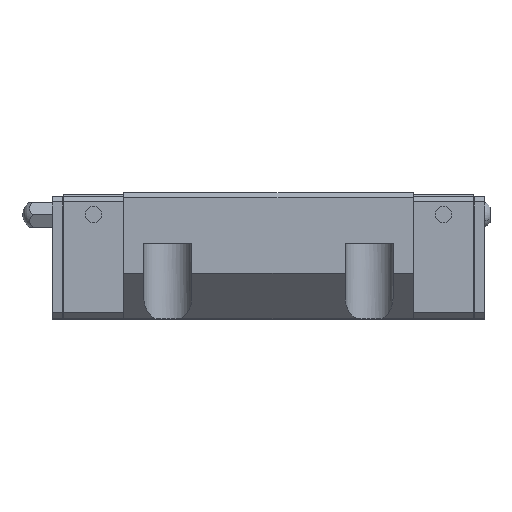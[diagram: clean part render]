
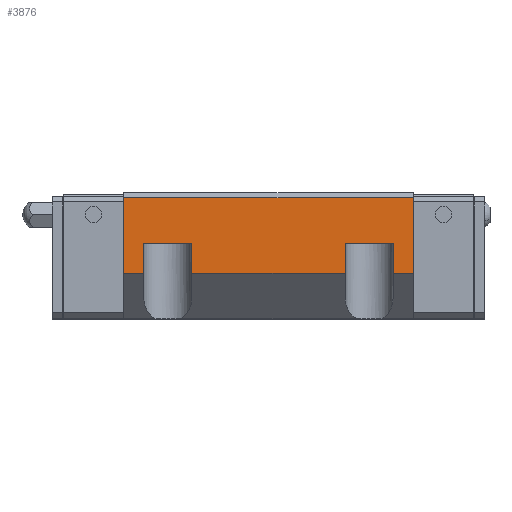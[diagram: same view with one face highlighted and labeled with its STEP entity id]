
A CAD part, top view. The second image highlights one B-rep face of the part: STEP entity #3876.
In plain terms, the highlighted planar face has unit normal (0, 0, 1).
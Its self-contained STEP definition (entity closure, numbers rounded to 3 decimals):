
#3 = DIRECTION ( 'NONE',  ( 0., -1., 0. ) ) ;
#253 = CARTESIAN_POINT ( 'NONE',  ( 15.25, -7., 31.5 ) ) ;
#386 = VERTEX_POINT ( 'NONE', #612 ) ;
#395 = VECTOR ( 'NONE', #3, 1000. ) ;
#406 = CARTESIAN_POINT ( 'NONE',  ( -28.75, -7., 31.5 ) ) ;
#594 = ORIENTED_EDGE ( 'NONE', *, *, #7575, .F. ) ;
#612 = CARTESIAN_POINT ( 'NONE',  ( 28.75, -7., 31.5 ) ) ;
#812 = FACE_OUTER_BOUND ( 'NONE', #8209, .T. ) ;
#908 = EDGE_CURVE ( 'NONE', #2154, #386, #2300, .T. ) ;
#999 = VECTOR ( 'NONE', #5262, 1000. ) ;
#1322 = ORIENTED_EDGE ( 'NONE', *, *, #3606, .T. ) ;
#1836 = CARTESIAN_POINT ( 'NONE',  ( -15.25, -7., 31.5 ) ) ;
#2023 = VERTEX_POINT ( 'NONE', #6689 ) ;
#2154 = VERTEX_POINT ( 'NONE', #3276 ) ;
#2207 = VERTEX_POINT ( 'NONE', #2895 ) ;
#2223 = DIRECTION ( 'NONE',  ( 1., 0., 0. ) ) ;
#2300 = LINE ( 'NONE', #5760, #7886 ) ;
#2316 = ORIENTED_EDGE ( 'NONE', *, *, #8424, .T. ) ;
#2397 = DIRECTION ( 'NONE',  ( 1., 0., 0. ) ) ;
#2449 = LINE ( 'NONE', #7252, #999 ) ;
#2746 = CARTESIAN_POINT ( 'NONE',  ( -15.25, -7., 31.5 ) ) ;
#2852 = VERTEX_POINT ( 'NONE', #253 ) ;
#2895 = CARTESIAN_POINT ( 'NONE',  ( -24.75, -1., 31.5 ) ) ;
#2942 = CARTESIAN_POINT ( 'NONE',  ( -28.75, -7., 31.5 ) ) ;
#2970 = CARTESIAN_POINT ( 'NONE',  ( 24.75, -1., 31.5 ) ) ;
#3052 = LINE ( 'NONE', #5777, #6879 ) ;
#3196 = VECTOR ( 'NONE', #8464, 1000. ) ;
#3276 = CARTESIAN_POINT ( 'NONE',  ( 24.75, -7., 31.5 ) ) ;
#3291 = VERTEX_POINT ( 'NONE', #3915 ) ;
#3309 = ORIENTED_EDGE ( 'NONE', *, *, #6244, .T. ) ;
#3412 = DIRECTION ( 'NONE',  ( 1., 0., 0. ) ) ;
#3494 = DIRECTION ( 'NONE',  ( 0., 0., 1. ) ) ;
#3516 = VERTEX_POINT ( 'NONE', #7846 ) ;
#3606 = EDGE_CURVE ( 'NONE', #2207, #3516, #7076, .T. ) ;
#3672 = EDGE_CURVE ( 'NONE', #7674, #6205, #7990, .T. ) ;
#3876 = ADVANCED_FACE ( 'NONE', ( #812 ), #6309, .T. ) ;
#3915 = CARTESIAN_POINT ( 'NONE',  ( 24.75, -1., 31.5 ) ) ;
#3942 = ORIENTED_EDGE ( 'NONE', *, *, #6703, .T. ) ;
#4088 = AXIS2_PLACEMENT_3D ( 'NONE', #5579, #3494, #4291 ) ;
#4103 = VECTOR ( 'NONE', #5556, 1000. ) ;
#4259 = VECTOR ( 'NONE', #2223, 1000. ) ;
#4291 = DIRECTION ( 'NONE',  ( 0., -1., 0. ) ) ;
#4500 = DIRECTION ( 'NONE',  ( 0., -1., 0. ) ) ;
#4644 = EDGE_CURVE ( 'NONE', #2023, #3291, #7768, .T. ) ;
#4710 = ORIENTED_EDGE ( 'NONE', *, *, #6375, .F. ) ;
#4748 = EDGE_CURVE ( 'NONE', #4774, #2852, #6338, .T. ) ;
#4750 = LINE ( 'NONE', #2970, #6618 ) ;
#4774 = VERTEX_POINT ( 'NONE', #1836 ) ;
#4895 = CARTESIAN_POINT ( 'NONE',  ( -24.75, -7., 31.5 ) ) ;
#4896 = ORIENTED_EDGE ( 'NONE', *, *, #908, .T. ) ;
#5259 = ORIENTED_EDGE ( 'NONE', *, *, #6815, .F. ) ;
#5262 = DIRECTION ( 'NONE',  ( 0., -1., 0. ) ) ;
#5556 = DIRECTION ( 'NONE',  ( 1., 0., 0. ) ) ;
#5579 = CARTESIAN_POINT ( 'NONE',  ( 28.75, 8., 31.5 ) ) ;
#5585 = LINE ( 'NONE', #6317, #395 ) ;
#5641 = CARTESIAN_POINT ( 'NONE',  ( 15.25, -1., 31.5 ) ) ;
#5694 = VECTOR ( 'NONE', #7728, 1000. ) ;
#5760 = CARTESIAN_POINT ( 'NONE',  ( 24.75, -7., 31.5 ) ) ;
#5777 = CARTESIAN_POINT ( 'NONE',  ( 15.25, -1., 31.5 ) ) ;
#5817 = ORIENTED_EDGE ( 'NONE', *, *, #4748, .T. ) ;
#5963 = DIRECTION ( 'NONE',  ( 0., 1., 0. ) ) ;
#6105 = ORIENTED_EDGE ( 'NONE', *, *, #3672, .T. ) ;
#6205 = VERTEX_POINT ( 'NONE', #4895 ) ;
#6244 = EDGE_CURVE ( 'NONE', #3291, #2154, #4750, .T. ) ;
#6309 = PLANE ( 'NONE',  #4088 ) ;
#6317 = CARTESIAN_POINT ( 'NONE',  ( -24.75, -1., 31.5 ) ) ;
#6338 = LINE ( 'NONE', #2746, #4103 ) ;
#6375 = EDGE_CURVE ( 'NONE', #7674, #8143, #7365, .T. ) ;
#6618 = VECTOR ( 'NONE', #7098, 1000. ) ;
#6689 = CARTESIAN_POINT ( 'NONE',  ( 15.25, -1., 31.5 ) ) ;
#6703 = EDGE_CURVE ( 'NONE', #386, #7387, #7690, .T. ) ;
#6795 = CARTESIAN_POINT ( 'NONE',  ( -28.75, 8., 31.5 ) ) ;
#6815 = EDGE_CURVE ( 'NONE', #2023, #2852, #3052, .T. ) ;
#6879 = VECTOR ( 'NONE', #4500, 1000. ) ;
#6925 = CARTESIAN_POINT ( 'NONE',  ( -28.75, 8., 31.5 ) ) ;
#7042 = ORIENTED_EDGE ( 'NONE', *, *, #7556, .F. ) ;
#7056 = VECTOR ( 'NONE', #7380, 1000. ) ;
#7076 = LINE ( 'NONE', #8540, #4259 ) ;
#7098 = DIRECTION ( 'NONE',  ( 0., -1., 0. ) ) ;
#7228 = CARTESIAN_POINT ( 'NONE',  ( -28.75, -7., 31.5 ) ) ;
#7252 = CARTESIAN_POINT ( 'NONE',  ( -15.25, -1., 31.5 ) ) ;
#7365 = LINE ( 'NONE', #7228, #8691 ) ;
#7380 = DIRECTION ( 'NONE',  ( 1., 0., 0. ) ) ;
#7387 = VERTEX_POINT ( 'NONE', #8949 ) ;
#7556 = EDGE_CURVE ( 'NONE', #8143, #7387, #8312, .T. ) ;
#7575 = EDGE_CURVE ( 'NONE', #2207, #6205, #5585, .T. ) ;
#7674 = VERTEX_POINT ( 'NONE', #2942 ) ;
#7690 = LINE ( 'NONE', #8469, #5694 ) ;
#7728 = DIRECTION ( 'NONE',  ( 0., 1., 0. ) ) ;
#7768 = LINE ( 'NONE', #5641, #3196 ) ;
#7846 = CARTESIAN_POINT ( 'NONE',  ( -15.25, -1., 31.5 ) ) ;
#7886 = VECTOR ( 'NONE', #2397, 1000. ) ;
#7990 = LINE ( 'NONE', #406, #7056 ) ;
#8143 = VERTEX_POINT ( 'NONE', #6795 ) ;
#8209 = EDGE_LOOP ( 'NONE', ( #8575, #3309, #4896, #3942, #7042, #4710, #6105, #594, #1322, #2316, #5817, #5259 ) ) ;
#8312 = LINE ( 'NONE', #6925, #8655 ) ;
#8424 = EDGE_CURVE ( 'NONE', #3516, #4774, #2449, .T. ) ;
#8464 = DIRECTION ( 'NONE',  ( 1., 0., 0. ) ) ;
#8469 = CARTESIAN_POINT ( 'NONE',  ( 28.75, -7., 31.5 ) ) ;
#8540 = CARTESIAN_POINT ( 'NONE',  ( -24.75, -1., 31.5 ) ) ;
#8575 = ORIENTED_EDGE ( 'NONE', *, *, #4644, .T. ) ;
#8655 = VECTOR ( 'NONE', #3412, 1000. ) ;
#8691 = VECTOR ( 'NONE', #5963, 1000. ) ;
#8949 = CARTESIAN_POINT ( 'NONE',  ( 28.75, 8., 31.5 ) ) ;
